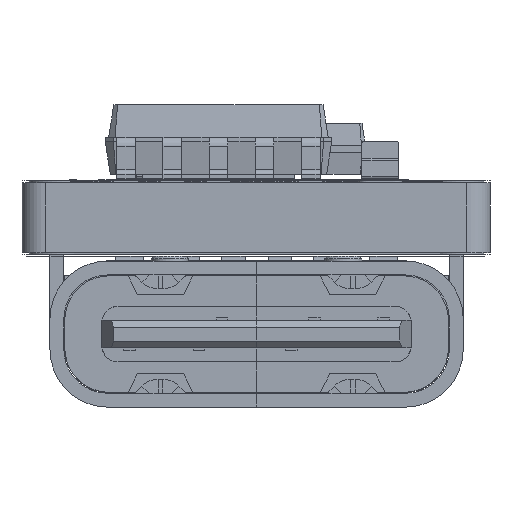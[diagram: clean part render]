
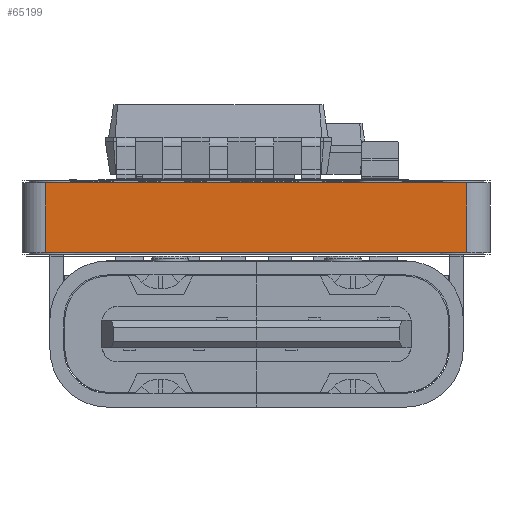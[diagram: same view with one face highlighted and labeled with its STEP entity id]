
A CAD part, front view. The second image highlights one B-rep face of the part: STEP entity #65199.
In plain terms, the highlighted planar face has unit normal (0, -1, 0).
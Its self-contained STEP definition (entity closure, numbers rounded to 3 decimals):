
#64804 = VERTEX_POINT('',#64805);
#64805 = CARTESIAN_POINT('',(-4.563,-6.125,0.));
#64812 = EDGE_CURVE('',#64813,#64804,#64815,.T.);
#64813 = VERTEX_POINT('',#64814);
#64814 = CARTESIAN_POINT('',(4.563,-6.125,0.));
#64815 = LINE('',#64816,#64817);
#64816 = CARTESIAN_POINT('',(4.563,-6.125,0.));
#64817 = VECTOR('',#64818,1.);
#64818 = DIRECTION('',(-1.,0.,0.));
#64988 = VERTEX_POINT('',#64989);
#64989 = CARTESIAN_POINT('',(-4.563,-6.125,1.51));
#64996 = EDGE_CURVE('',#64997,#64988,#64999,.T.);
#64997 = VERTEX_POINT('',#64998);
#64998 = CARTESIAN_POINT('',(4.563,-6.125,1.51));
#64999 = LINE('',#65000,#65001);
#65000 = CARTESIAN_POINT('',(4.563,-6.125,1.51));
#65001 = VECTOR('',#65002,1.);
#65002 = DIRECTION('',(-1.,0.,0.));
#65171 = EDGE_CURVE('',#64813,#64997,#65172,.T.);
#65172 = LINE('',#65173,#65174);
#65173 = CARTESIAN_POINT('',(4.563,-6.125,0.));
#65174 = VECTOR('',#65175,1.);
#65175 = DIRECTION('',(0.,0.,1.));
#65199 = ADVANCED_FACE('',(#65200),#65211,.T.);
#65200 = FACE_BOUND('',#65201,.T.);
#65201 = EDGE_LOOP('',(#65202,#65203,#65204,#65210));
#65202 = ORIENTED_EDGE('',*,*,#65171,.T.);
#65203 = ORIENTED_EDGE('',*,*,#64996,.T.);
#65204 = ORIENTED_EDGE('',*,*,#65205,.F.);
#65205 = EDGE_CURVE('',#64804,#64988,#65206,.T.);
#65206 = LINE('',#65207,#65208);
#65207 = CARTESIAN_POINT('',(-4.563,-6.125,0.));
#65208 = VECTOR('',#65209,1.);
#65209 = DIRECTION('',(0.,0.,1.));
#65210 = ORIENTED_EDGE('',*,*,#64812,.F.);
#65211 = PLANE('',#65212);
#65212 = AXIS2_PLACEMENT_3D('',#65213,#65214,#65215);
#65213 = CARTESIAN_POINT('',(4.563,-6.125,0.));
#65214 = DIRECTION('',(0.,-1.,0.));
#65215 = DIRECTION('',(-1.,0.,0.));
